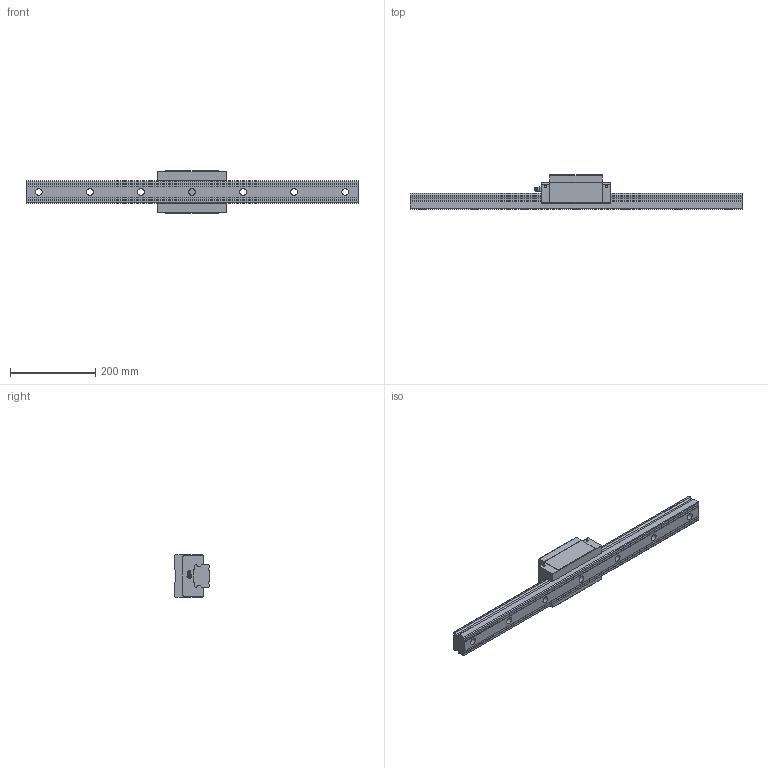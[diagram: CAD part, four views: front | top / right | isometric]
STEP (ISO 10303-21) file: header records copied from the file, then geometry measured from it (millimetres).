
FILE_DESCRIPTION(/* description */ ('STEP AP203'),/* implementation_level */ '2;1');
FILE_NAME(/* name */ 'SVR55RH1SS-780L_G30_0_B-PT18_308-35_0_0_01',/* time_stamp */ '2024-05-17T07:28:40+02:00',/* author */ ('License CC BY-ND 4.0'),/* organization */ ('CADENAS'),/* preprocessor_version */ 'ST-DEVELOPER v19.3',/* originating_system */ 'PARTsolutions',/* authorisation */ ' ');
FILE_SCHEMA (('CONFIG_CONTROL_DESIGN'));
Length unit declared in the file: millimetre
Products named in the file (4): SVR55RH1SS-780L_G30_0_B-PT18_308-35_0_0_01; SVR 55RH78030 R Track; SVR 55RH1SSB-PT1/81 Slide; B-PT1/8_grease_nipple_joint1_SVR
Assembly tree (3 placements, depth 2):
  SVR55RH1SS-780L_G30_0_B-PT18_308-35_0_0_01
    SVR 55RH78030 R Track
    SVR 55RH1SSB-PT1/81 Slide
    B-PT1/8_grease_nipple_joint1_SVR
Bounding box: 780 x 80 x 100 mm (x, y, z)
Volume: 2125538.6 mm3; surface area: 235688.7 mm2
Topology: 3 solids, 3 shells, 180 faces, 470 edges, 309 vertices
Faces by surface type: plane 100, cylinder 55, cone 20, torus 3, sphere 2
Full cylindrical faces by diameter (mm): 5.2 x4, 9.6 x1, 10.106 x4, 16 x7, 23 x7
Entity records: 5340 total; most frequent: CARTESIAN_POINT 1011, DIRECTION 878, ORIENTED_EDGE 806, EDGE_CURVE 403, AXIS2_PLACEMENT_3D 318, VERTEX_POINT 296, FACE_BOUND 261, EDGE_LOOP 255
